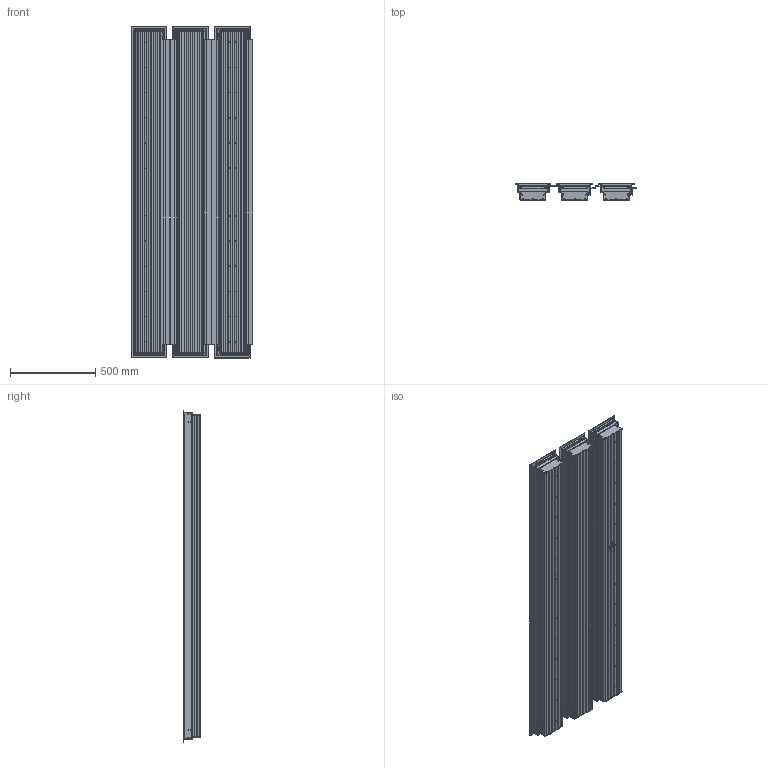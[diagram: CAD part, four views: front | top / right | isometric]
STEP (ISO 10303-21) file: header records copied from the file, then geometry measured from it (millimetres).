
FILE_DESCRIPTION (( 'STEP AP203' ), '1' );
FILE_NAME ('975256_C225i_with_307505 RevB Bezel Low-Profile.STEP', '2024-07-26T13:33:54', ( '' ), ( '' ), 'SwSTEP 2.0', 'SolidWorks 2023', '' );
FILE_SCHEMA (( 'CONFIG_CONTROL_DESIGN' ));
Products named in the file (1): 975256_C225i_with_307505 RevB Bezel Low-Profile
Bounding box: 713.62 x 98.83 x 1944.14 mm (x, y, z)
Surface area: 5853751.6 mm2 (no closed solid volume)
Topology: 0 solids, 254 shells, 1305 faces, 6297 edges, 5148 vertices
Faces by surface type: plane 735, cylinder 423, cone 104, torus 29, bspline 14
Full cylindrical faces by diameter (mm): 2.705 x9, 3.302 x36, 3.454 x3, 3.734 x48, 4.039 x8, 4.496 x16, 9.474 x5, 11.455 x20, 12.7 x10, 50.8 x2, 70.104 x5
Entity records: 63040 total; most frequent: CARTESIAN_POINT 14153, DIRECTION 10314, ORIENTED_EDGE 7974, EDGE_CURVE 5896, VERTEX_POINT 5042, VECTOR 3514, LINE 3514, AXIS2_PLACEMENT_3D 3400
